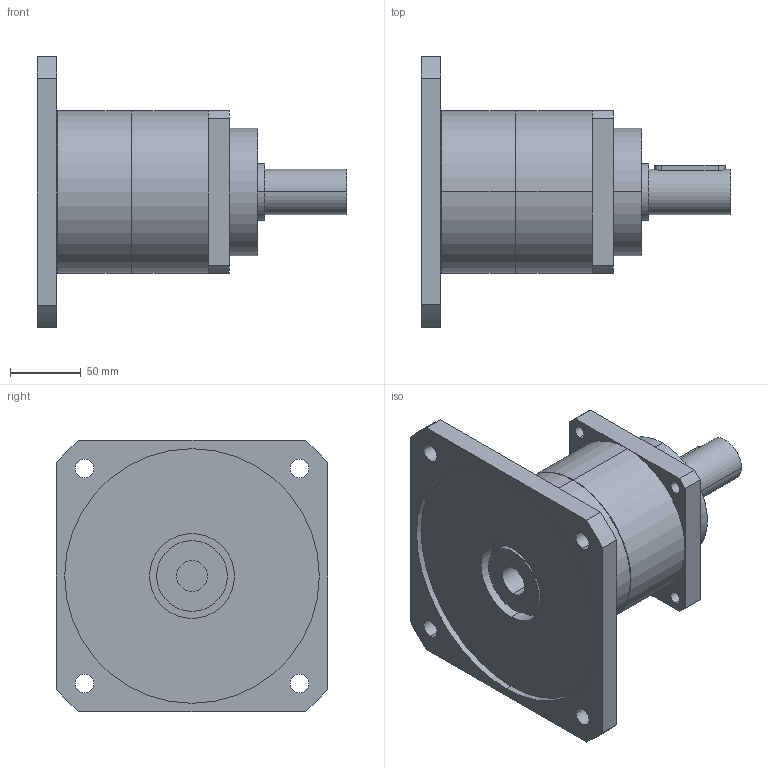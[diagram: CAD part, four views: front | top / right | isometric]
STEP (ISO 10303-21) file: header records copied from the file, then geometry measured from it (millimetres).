
FILE_DESCRIPTION(('CoCreate Modeling STEP Export'),'2;1');
FILE_NAME('GPT120_ig-3-4-5-7-10_32_B5A_22_P09.stp','2015-02-04T16:59:25',(''),(''),'CoCreate Modeling STEP processor for AP214 (Solid Model)','CoCreate Modeling 16.00C 25-Feb-2009 (C) Parametric Technology GmbH','');
FILE_SCHEMA(('AUTOMOTIVE_DESIGN { 1 0 10303 214 1 1 1 1 }'));
Length unit declared in the file: millimetre
Products named in the file (2): GPT120_ig-3-4-5-7-10_32_B5A_22_P09
Assembly tree (1 placements, depth 2):
  GPT120_ig-3-4-5-7-10_32_B5A_22_P09
    GPT120_ig-3-4-5-7-10_32_B5A_22_P09
Bounding box: 219 x 192 x 192 mm (x, y, z)
Volume: 1837042.2 mm3; surface area: 159570.7 mm2
Topology: 1 solids, 1 shells, 77 faces, 204 edges, 139 vertices
Faces by surface type: cylinder 46, plane 27, cone 4
Entity records: 2568 total; most frequent: CARTESIAN_POINT 759, ORIENTED_EDGE 408, DIRECTION 320, EDGE_CURVE 204, VERTEX_POINT 139, AXIS2_PLACEMENT_3D 118, EDGE_LOOP 103, VECTOR 84
